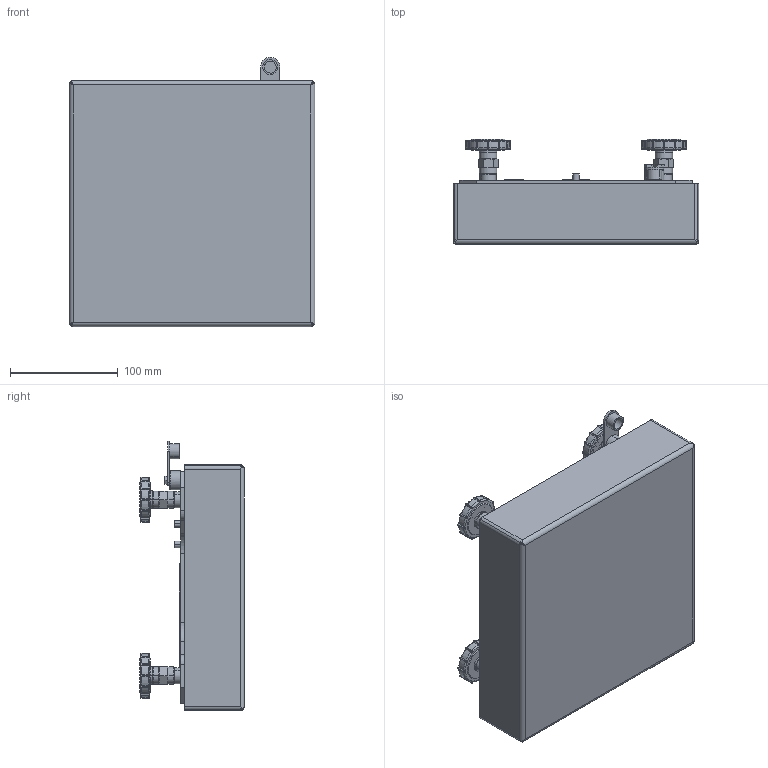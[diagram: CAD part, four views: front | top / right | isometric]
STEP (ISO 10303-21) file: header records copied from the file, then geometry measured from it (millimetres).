
FILE_DESCRIPTION((''),'2;1');
FILE_NAME('PLATFORM_PBA43X_QA_HYGIENIC','2022-03-18T09:36:15',('fu-34'),(''),'CREO PARAMETRIC BY PTC INC, 2018260','CREO PARAMETRIC BY PTC INC, 2018260','');
FILE_SCHEMA(('CONFIG_CONTROL_DESIGN','SHAPE_APPEARANCE_LAYERS_GROUPS'));
Products named in the file (1): PLATFORM_PBA43X_QA_HYGIENIC
Bounding box: 227.9 x 97.2 x 249.45 mm (x, y, z)
Volume: 627828 mm3; surface area: 454977.2 mm2
Topology: 5 solids, 112 shells, 3033 faces, 7440 edges, 4729 vertices
Faces by surface type: plane 1627, cylinder 830, cone 410, torus 144, bspline 18, sphere 4
Entity records: 113548 total; most frequent: CARTESIAN_POINT 20445, DIRECTION 14990, ORIENTED_EDGE 14561, EDGE_CURVE 7414, AXIS2_PLACEMENT_3D 5338, VERTEX_POINT 4729, PRESENTATION_STYLE_ASSIGNMENT 4703, STYLED_ITEM 4703
